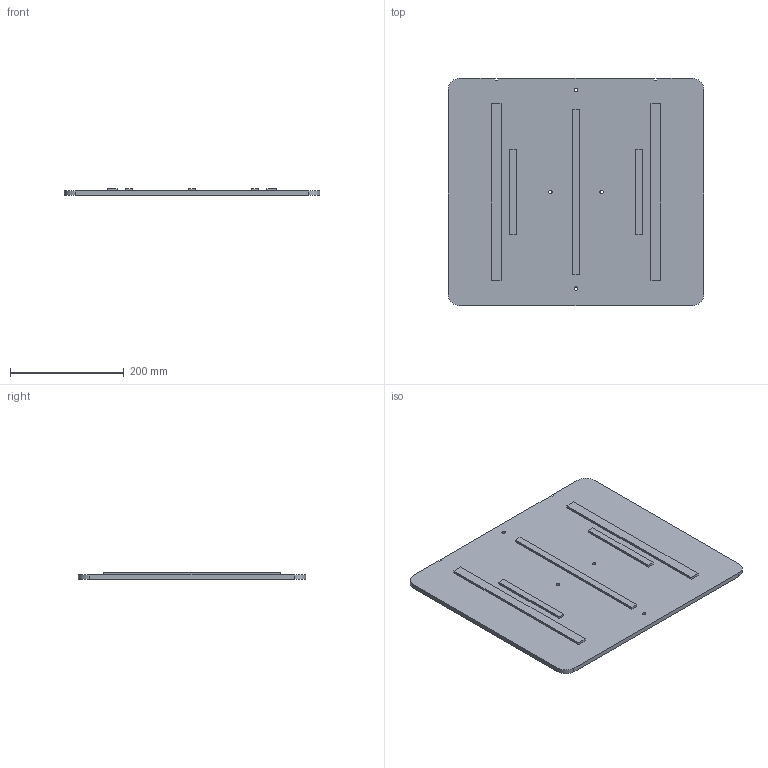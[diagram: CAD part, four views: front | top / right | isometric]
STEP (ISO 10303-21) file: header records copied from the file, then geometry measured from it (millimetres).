
FILE_DESCRIPTION (( 'STEP AP214' ), '1' );
FILE_NAME ('íàãðåâàòåëü äëÿ êðûøêè NEW.STEP', '2025-04-17T12:16:40', ( '' ), ( '' ), 'SwSTEP 2.0', 'SolidWorks 2020', '' );
FILE_SCHEMA (( 'AUTOMOTIVE_DESIGN' ));
Length unit declared in the file: millimetre
Products named in the file (1): íàãðåâàòåëü äëÿ êðûøêè NEW
Bounding box: 450 x 400 x 12 mm (x, y, z)
Volume: 1506636.3 mm3; surface area: 383303.6 mm2
Topology: 1 solids, 1 shells, 51 faces, 132 edges, 88 vertices
Faces by surface type: plane 39, cylinder 12
Entity records: 1600 total; most frequent: CARTESIAN_POINT 272, ORIENTED_EDGE 264, DIRECTION 260, EDGE_CURVE 132, LINE 108, VECTOR 108, VERTEX_POINT 88, AXIS2_PLACEMENT_3D 76
